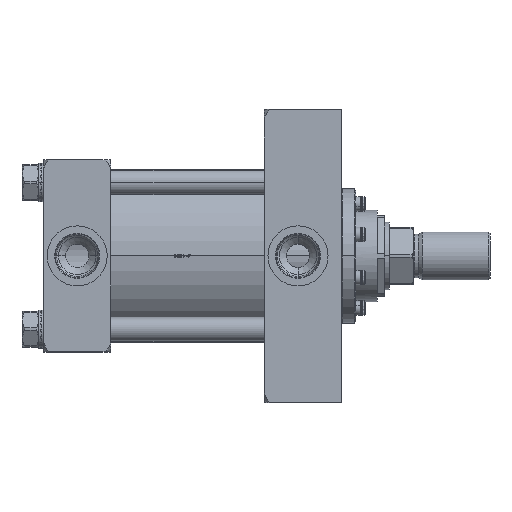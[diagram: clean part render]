
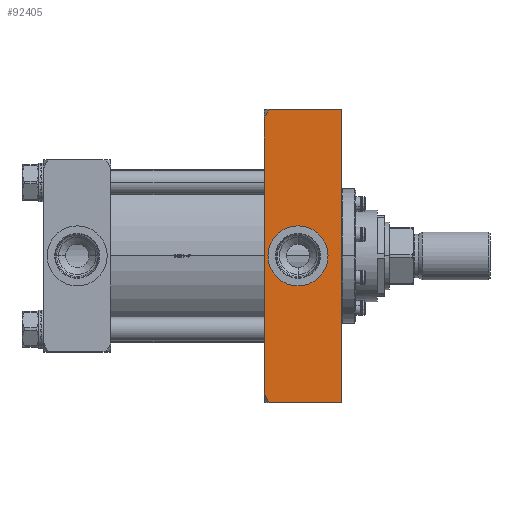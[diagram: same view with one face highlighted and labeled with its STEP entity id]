
A CAD part, top view. The second image highlights one B-rep face of the part: STEP entity #92405.
In plain terms, the highlighted planar face has unit normal (0, 0, 1).
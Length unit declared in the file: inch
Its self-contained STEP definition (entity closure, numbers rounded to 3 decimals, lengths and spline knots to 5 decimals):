
#1538 = CARTESIAN_POINT ( 'NONE',  ( -3.875, -3.54006, 2.5 ) ) ;
#4333 = CARTESIAN_POINT ( 'NONE',  ( -3.75074, 3.8125, 2.5 ) ) ;
#4646 = FACE_OUTER_BOUND ( 'NONE', #75026, .T. ) ;
#4747 = CARTESIAN_POINT ( 'NONE',  ( -3., -0.7815, 2.5 ) ) ;
#6683 = CARTESIAN_POINT ( 'NONE',  ( -3.875, 3.8125, 2.5 ) ) ;
#7180 = EDGE_CURVE ( 'NONE', #49179, #36713, #20757, .T. ) ;
#7401 = VERTEX_POINT ( 'NONE', #13962 ) ;
#7714 = ORIENTED_EDGE ( 'NONE', *, *, #84781, .T. ) ;
#7738 = CARTESIAN_POINT ( 'NONE',  ( -3.75074, -3.8125, 2.5 ) ) ;
#10348 = VERTEX_POINT ( 'NONE', #4747 ) ;
#11467 = CARTESIAN_POINT ( 'NONE',  ( -3.84702, 3.6469, 2.5 ) ) ;
#11655 = DIRECTION ( 'NONE',  ( 0., 1., 0. ) ) ;
#11891 = LINE ( 'NONE', #34231, #65487 ) ;
#12415 = CARTESIAN_POINT ( 'NONE',  ( -3.87025, 3.56781, 2.5 ) ) ;
#13962 = CARTESIAN_POINT ( 'NONE',  ( -1.875, 3.8125, 2.5 ) ) ;
#17591 = EDGE_CURVE ( 'NONE', #46591, #7401, #11891, .T. ) ;
#18323 = CARTESIAN_POINT ( 'NONE',  ( -3., 0., 2.5 ) ) ;
#18790 = DIRECTION ( 'NONE',  ( 0., 0., -1. ) ) ;
#19316 = VERTEX_POINT ( 'NONE', #73574 ) ;
#19390 = DIRECTION ( 'NONE',  ( 0., 0., -1. ) ) ;
#20529 = DIRECTION ( 'NONE',  ( 0., 0., -1. ) ) ;
#20757 = LINE ( 'NONE', #57767, #64679 ) ;
#22485 = CARTESIAN_POINT ( 'NONE',  ( -3.84136, -3.65891, 2.5 ) ) ;
#23413 = VERTEX_POINT ( 'NONE', #90852 ) ;
#26659 = CARTESIAN_POINT ( 'NONE',  ( -3.875, 3.52637, 2.5 ) ) ;
#27653 = EDGE_CURVE ( 'NONE', #36713, #93839, #91493, .T. ) ;
#28449 = EDGE_CURVE ( 'NONE', #93839, #7401, #44143, .T. ) ;
#28882 = DIRECTION ( 'NONE',  ( 1., 0., 0. ) ) ;
#29474 = CARTESIAN_POINT ( 'NONE',  ( -3., 0., 2.5 ) ) ;
#29561 = CARTESIAN_POINT ( 'NONE',  ( -3.84673, -3.64629, 2.5 ) ) ;
#30251 = VECTOR ( 'NONE', #79860, 39.37008 ) ;
#32303 = ORIENTED_EDGE ( 'NONE', *, *, #17591, .T. ) ;
#34231 = CARTESIAN_POINT ( 'NONE',  ( -1.875, -3.8125, 2.5 ) ) ;
#35869 = B_SPLINE_CURVE_WITH_KNOTS ( 'NONE', 3,
 ( #7738, #72821, #59001, #88030, #80885, #22485, #29561, #73275, #50986, #37176, #1538, #52372 ),
 .UNSPECIFIED., .F., .F.,
 ( 4, 2, 2, 2, 2, 4 ),
 ( 0.0094, 0.01149, 0.01358, 0.01462, 0.01566, 0.01775 ),
 .UNSPECIFIED. ) ;
#36168 = DIRECTION ( 'NONE',  ( 0., 1., 0. ) ) ;
#36713 = VERTEX_POINT ( 'NONE', #81093 ) ;
#37176 = CARTESIAN_POINT ( 'NONE',  ( -3.87115, -3.56719, 2.5 ) ) ;
#37524 = ORIENTED_EDGE ( 'NONE', *, *, #48366, .T. ) ;
#40411 = CARTESIAN_POINT ( 'NONE',  ( -3.87403, 3.5402, 2.5 ) ) ;
#41363 = CARTESIAN_POINT ( 'NONE',  ( -3.85694, 3.62123, 2.5 ) ) ;
#41668 = ORIENTED_EDGE ( 'NONE', *, *, #55001, .T. ) ;
#44143 = LINE ( 'NONE', #6683, #30251 ) ;
#46349 = ORIENTED_EDGE ( 'NONE', *, *, #90670, .F. ) ;
#46591 = VERTEX_POINT ( 'NONE', #50523 ) ;
#47537 = CARTESIAN_POINT ( 'NONE',  ( -3.875, 3.5125, 2.5 ) ) ;
#48366 = EDGE_CURVE ( 'NONE', #19316, #46591, #58333, .T. ) ;
#48498 = CARTESIAN_POINT ( 'NONE',  ( -3.875, -3.5125, 2.5 ) ) ;
#48698 = CIRCLE ( 'NONE', #85208, 0.7815 ) ;
#48956 = CARTESIAN_POINT ( 'NONE',  ( -3.81009, 3.72107, 2.5 ) ) ;
#49179 = VERTEX_POINT ( 'NONE', #48498 ) ;
#50523 = CARTESIAN_POINT ( 'NONE',  ( -1.875, -3.8125, 2.5 ) ) ;
#50674 = DIRECTION ( 'NONE',  ( 0., 1., 0. ) ) ;
#50986 = CARTESIAN_POINT ( 'NONE',  ( -3.86063, -3.60735, 2.5 ) ) ;
#51651 = EDGE_LOOP ( 'NONE', ( #7714, #41668 ) ) ;
#52372 = CARTESIAN_POINT ( 'NONE',  ( -3.875, -3.5125, 2.5 ) ) ;
#53043 = AXIS2_PLACEMENT_3D ( 'NONE', #61195, #19390, #77358 ) ;
#55001 = EDGE_CURVE ( 'NONE', #10348, #23413, #48698, .T. ) ;
#57767 = CARTESIAN_POINT ( 'NONE',  ( -3.875, -3.8125, 2.5 ) ) ;
#58333 = LINE ( 'NONE', #85959, #72004 ) ;
#59001 = CARTESIAN_POINT ( 'NONE',  ( -3.78188, -3.76724, 2.5 ) ) ;
#61195 = CARTESIAN_POINT ( 'NONE',  ( -3.875, -3.8125, 2.5 ) ) ;
#64679 = VECTOR ( 'NONE', #50674, 39.37008 ) ;
#65487 = VECTOR ( 'NONE', #84591, 39.37008 ) ;
#69377 = CARTESIAN_POINT ( 'NONE',  ( -3.76644, 3.79029, 2.5 ) ) ;
#70335 = CARTESIAN_POINT ( 'NONE',  ( -3.82347, 3.69706, 2.5 ) ) ;
#71268 = CARTESIAN_POINT ( 'NONE',  ( -3.86747, 3.58134, 2.5 ) ) ;
#72004 = VECTOR ( 'NONE', #28882, 39.37008 ) ;
#72821 = CARTESIAN_POINT ( 'NONE',  ( -3.76658, -3.7901, 2.5 ) ) ;
#73275 = CARTESIAN_POINT ( 'NONE',  ( -3.85636, -3.62055, 2.5 ) ) ;
#73574 = CARTESIAN_POINT ( 'NONE',  ( -3.75074, -3.8125, 2.5 ) ) ;
#75026 = EDGE_LOOP ( 'NONE', ( #46349, #37524, #32303, #82504, #75639, #78459 ) ) ;
#75639 = ORIENTED_EDGE ( 'NONE', *, *, #27653, .F. ) ;
#77358 = DIRECTION ( 'NONE',  ( 0., 1., 0. ) ) ;
#77485 = CIRCLE ( 'NONE', #85104, 0.7815 ) ;
#77972 = CARTESIAN_POINT ( 'NONE',  ( -3.78159, 3.76767, 2.5 ) ) ;
#78459 = ORIENTED_EDGE ( 'NONE', *, *, #7180, .F. ) ;
#79860 = DIRECTION ( 'NONE',  ( 1., 0., 0. ) ) ;
#80885 = CARTESIAN_POINT ( 'NONE',  ( -3.82394, -3.69614, 2.5 ) ) ;
#81093 = CARTESIAN_POINT ( 'NONE',  ( -3.875, 3.5125, 2.5 ) ) ;
#82504 = ORIENTED_EDGE ( 'NONE', *, *, #28449, .F. ) ;
#84006 = FACE_BOUND ( 'NONE', #51651, .T. ) ;
#84482 = PLANE ( 'NONE',  #53043 ) ;
#84591 = DIRECTION ( 'NONE',  ( 0., 1., 0. ) ) ;
#84781 = EDGE_CURVE ( 'NONE', #23413, #10348, #77485, .T. ) ;
#85104 = AXIS2_PLACEMENT_3D ( 'NONE', #18323, #18790, #11655 ) ;
#85208 = AXIS2_PLACEMENT_3D ( 'NONE', #29474, #20529, #36168 ) ;
#85959 = CARTESIAN_POINT ( 'NONE',  ( -3.875, -3.8125, 2.5 ) ) ;
#86142 = CARTESIAN_POINT ( 'NONE',  ( -3.75074, 3.8125, 2.5 ) ) ;
#88030 = CARTESIAN_POINT ( 'NONE',  ( -3.81062, -3.72016, 2.5 ) ) ;
#90670 = EDGE_CURVE ( 'NONE', #19316, #49179, #35869, .T. ) ;
#90852 = CARTESIAN_POINT ( 'NONE',  ( -3., 0.7815, 2.5 ) ) ;
#91493 = B_SPLINE_CURVE_WITH_KNOTS ( 'NONE', 3,
 ( #47537, #26659, #40411, #12415, #71268, #41363, #11467, #70335, #48956, #77972, #69377, #4333 ),
 .UNSPECIFIED., .F., .F.,
 ( 4, 2, 2, 2, 2, 4 ),
 ( 0.00462, 0.00565, 0.00669, 0.00876, 0.01083, 0.01291 ),
 .UNSPECIFIED. ) ;
#92405 = ADVANCED_FACE ( 'NONE', ( #4646, #84006 ), #84482, .F. ) ;
#93839 = VERTEX_POINT ( 'NONE', #86142 ) ;
